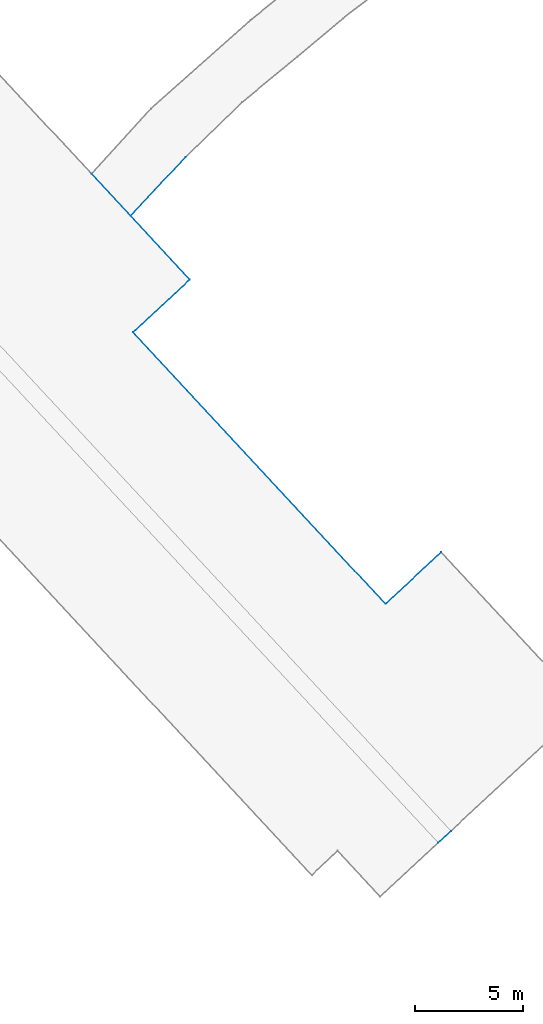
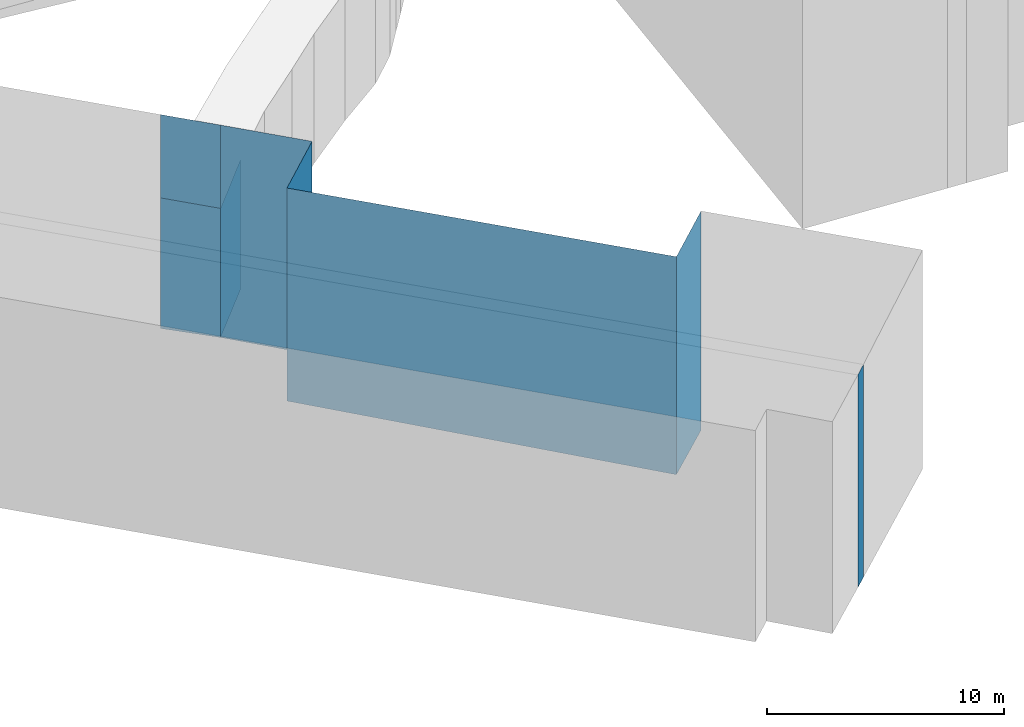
# Not in any storey, part 32 of 136: 8 walls.
"""IFC2X3 building model written with IfcOpenShell, lengths in metres."""

import ifcopenshell
import ifcopenshell.guid

model = None  # the IFC model being written
_history = None  # IfcOwnerHistory: only IFC2X3 demands one
_inside = {}  # id of a spatial element -> (the spatial element, [elements in it])
_under = {}  # id of a project, library or spatial element -> (it, [spatial elements below it])
_declared = {}  # id of a project -> (the project, [libraries it declares])
_typed = {}  # id of a type object -> (the type object, [elements of that type])
_made_of = {}  # id of a material, layer set ... -> (it, [elements and type objects made of it])


def new_model(schema):
    """Start an empty IFC model of exactly this schema.

    Asked for "IFC4X3", IfcOpenShell would pick the latest addendum, in which some entities
    have other attributes; the version numbers below select the first issue.
    IFC2X3 requires an IfcOwnerHistory on every rooted entity: one is made here for all.
    """
    global model, _history
    if schema == "IFC4X3":
        model = ifcopenshell.file(schema_version=(4, 3, 0, 0))
    else:
        model = ifcopenshell.file(schema=schema)
    _inside.clear()
    _under.clear()
    _declared.clear()
    _typed.clear()
    _made_of.clear()
    _history = None
    if model.schema == "IFC2X3":
        org = make("IfcOrganization", Name="unknown")
        user = make(
            "IfcPersonAndOrganization",
            ThePerson=make("IfcPerson", FamilyName="unknown"),
            TheOrganization=org,
        )
        app = make(
            "IfcApplication",
            ApplicationDeveloper=org,
            Version="unknown",
            ApplicationFullName="unknown",
            ApplicationIdentifier="unknown",
        )
        _history = make(
            "IfcOwnerHistory",
            OwningUser=user,
            OwningApplication=app,
            ChangeAction="ADDED",
            CreationDate=0,
        )
    return model


def make(cls, **values):
    """One entity of the class cls with the attributes given. An attribute that is None is left unset."""
    return model.create_entity(
        cls, **{name: value for name, value in values.items() if value is not None}
    )


def entity(cls, *values):
    """Any entity or typed value of the class cls, its attributes in the order of the schema. None: left unset."""
    e = model.create_entity(cls)
    for i, value in enumerate(values):
        if value is not None:
            e[i] = value
    return e


def rooted(cls, **values):
    """An entity with a GlobalId (a new one), such as an element, a storey or a relation."""
    return make(cls, GlobalId=ifcopenshell.guid.new(), OwnerHistory=_history, **values)


def si_unit(unit_type, name, prefix=None):
    """IfcSIUnit, for example si_unit("LENGTHUNIT", "METRE", prefix="MILLI")."""
    return make("IfcSIUnit", UnitType=unit_type, Prefix=prefix, Name=name)


def converted_unit(unit_type, name, factor, base, dimensions=None, offset=None):
    """IfcConversionBasedUnit, such as the inch: factor (a typed value) times the base unit."""
    return make(
        "IfcConversionBasedUnit"
        if offset is None
        else "IfcConversionBasedUnitWithOffset",
        ConversionOffset=offset,
        Dimensions=None
        if dimensions is None
        else entity("IfcDimensionalExponents", *dimensions),
        UnitType=unit_type,
        Name=name,
        ConversionFactor=make(
            "IfcMeasureWithUnit", ValueComponent=factor, UnitComponent=base
        ),
    )


def assignment(units):
    """IfcUnitAssignment: the units of a project."""
    return None if units is None else make("IfcUnitAssignment", Units=units)


def point(xyz):
    """IfcCartesianPoint."""
    return None if xyz is None else make("IfcCartesianPoint", Coordinates=xyz)


def direction(xyz):
    """IfcDirection."""
    return None if xyz is None else make("IfcDirection", DirectionRatios=xyz)


def frame(location, z_axis=None, x_axis=None):
    """IfcAxis2Placement3D, a coordinate frame: its origin and axes. An axis left out is left unset."""
    return make(
        "IfcAxis2Placement3D",
        Location=point(location),
        Axis=direction(z_axis),
        RefDirection=direction(x_axis),
    )


def origin():
    """The frame at (0, 0, 0) with its axes left unset."""
    return frame((0.0, 0.0, 0.0))


def place(relative_to, where):
    """IfcLocalPlacement: puts the frame where relative to a parent placement (None: the world)."""
    return make(
        "IfcLocalPlacement", PlacementRelTo=relative_to, RelativePlacement=where
    )


def context(
    kind, dimensions, precision=None, world=None, true_north=None, identifier=None
):
    """IfcGeometricRepresentationContext, for example the 3D "Model" context."""
    return make(
        "IfcGeometricRepresentationContext",
        ContextIdentifier=identifier,
        ContextType=kind,
        CoordinateSpaceDimension=dimensions,
        Precision=precision,
        WorldCoordinateSystem=world,
        TrueNorth=true_north,
    )


def subcontext(parent, identifier, kind, view, scale=None):
    """IfcGeometricRepresentationSubContext, for example "Body" below "Model"."""
    return make(
        "IfcGeometricRepresentationSubContext",
        ContextIdentifier=identifier,
        ContextType=kind,
        ParentContext=parent,
        TargetScale=scale,
        TargetView=view,
    )


def project(units=None, contexts=None):
    """IfcProject with its units and contexts."""
    return rooted(
        "IfcProject",
        Name="project",
        RepresentationContexts=contexts,
        UnitsInContext=assignment(units),
    )


def spatial(cls, under=None, at=None, **own):
    """A site, building, storey or space (cls), placed at a placement, below another one or the project."""
    s = rooted(cls, ObjectPlacement=at, **own)
    if under is not None:
        _under.setdefault(under.id(), (under, []))[1].append(s)
    return s


def faces_of(points, faces, orient=None, outer=None):
    """IfcFace entities. A face is a list of loops; a loop is a list of indices into points, from 0.

    orient and outer hold one flag for each loop. By default every Orientation is true, the
    first loop of a face is its IfcFaceOuterBound and the others are IfcFaceBound.
    """
    made = []
    for i, loops in enumerate(faces):
        bounds = []
        for j, loop in enumerate(loops):
            is_outer = j == 0 if outer is None else outer[i][j]
            bounds.append(
                make(
                    "IfcFaceOuterBound" if is_outer else "IfcFaceBound",
                    Bound=make("IfcPolyLoop", Polygon=[points[k] for k in loop]),
                    Orientation=True if orient is None else orient[i][j],
                )
            )
        made.append(make("IfcFace", Bounds=bounds))
    return made


def face_set(faces, orient=None, outer=None):
    """The faces of one IfcConnectedFaceSet. surface_model builds it on its shared points."""
    return ("IfcConnectedFaceSet", faces, orient, outer)


def surface_model(cls, points, shells):
    """IfcFaceBasedSurfaceModel or IfcShellBasedSurfaceModel (cls): surfaces that need not close."""
    shared = [point(p) for p in points]
    made = [make(c, CfsFaces=faces_of(shared, fs, o, b)) for c, fs, o, b in shells]
    if cls == "IfcFaceBasedSurfaceModel":
        return make(cls, FbsmFaces=made)
    return make(cls, SbsmBoundary=made)


def shape(context_of_items, identifier, shape_type, items):
    """IfcShapeRepresentation: the items that make up one representation, for example the "Body"."""
    return make(
        "IfcShapeRepresentation",
        ContextOfItems=context_of_items,
        RepresentationIdentifier=identifier,
        RepresentationType=shape_type,
        Items=items,
    )


def made_of(thing, what):
    """Note that an element or type object is made of a material, layer set ...; save() writes the relation."""
    if what is not None:
        _made_of.setdefault(what.id(), (what, []))[1].append(thing)
    return thing


def element(
    cls,
    number,
    at=None,
    inside=None,
    cuts=None,
    type_object=None,
    material=None,
    context=None,
    identifier="Body",
    shape_type=None,
    held_by="IfcProductDefinitionShape",
    body=None,
    shapes=None,
    **own,
):
    """One element of the class cls, such as IfcWall. Its Tag is "e" and its number.

    at: its placement. inside: the storey or other place that contains it. cuts: it is an
    opening in that element (IfcRelVoidsElement). A single representation is given by context,
    identifier, shape_type and body (its items); several are given by shapes. held_by: the class
    of the entity that holds the representations. save() writes the other relations.
    """
    e = rooted(cls, Tag="e%d" % number, ObjectPlacement=at, **own)
    if body is not None:
        shapes = [shape(context, identifier, shape_type, body)]
    if shapes is not None:
        e.Representation = make(held_by, Representations=shapes)
    if inside is not None:
        _inside.setdefault(inside.id(), (inside, []))[1].append(e)
    if cuts is not None:
        rooted(
            "IfcRelVoidsElement", RelatingBuildingElement=cuts, RelatedOpeningElement=e
        )
    if type_object is not None:
        _typed.setdefault(type_object.id(), (type_object, []))[1].append(e)
    return made_of(e, material)


def aggregate(whole, parts):
    """IfcRelAggregates: a whole, such as a stair, and the parts it consists of."""
    return rooted("IfcRelAggregates", RelatingObject=whole, RelatedObjects=parts)


def save(model, path):
    """Write the relations noted so far, then the file.

    IfcRelAggregates (storeys below a building ...), IfcRelContainedInSpatialStructure (elements
    in a storey), IfcRelDefinesByType, IfcRelAssociatesMaterial and IfcRelDeclares: one each for
    every whole, place, type object, material and project.
    """
    for whole, parts in _under.values():
        aggregate(whole, parts)
    for where, things in _inside.values():
        rooted(
            "IfcRelContainedInSpatialStructure",
            RelatedElements=things,
            RelatingStructure=where,
        )
    for kind, things in _typed.values():
        rooted("IfcRelDefinesByType", RelatedObjects=things, RelatingType=kind)
    for what, things in _made_of.values():
        rooted("IfcRelAssociatesMaterial", RelatedObjects=things, RelatingMaterial=what)
    for by, libraries in _declared.values():
        rooted("IfcRelDeclares", RelatingContext=by, RelatedDefinitions=libraries)
    model.write(path)


model = new_model("IFC2X3")

# Units and contexts
model_context = context("Model", 3, precision=1e-05, world=origin())
body_context = subcontext(model_context, "Body", "Model", "MODEL_VIEW")
ifc_project = project(units=[converted_unit("PLANEANGLEUNIT", "DEGREE", entity("IfcRatioMeasure", 0.0174532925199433), si_unit("PLANEANGLEUNIT", "RADIAN"), dimensions=[0, 0, 0, 0, 0, 0, 0]), si_unit("AREAUNIT", "SQUARE_METRE"), si_unit("LENGTHUNIT", "METRE")], contexts=[model_context])

# Site, building
site_placement = place(None, origin())
site = spatial("IfcSite", under=ifc_project, at=site_placement, Name="_site", CompositionType="ELEMENT")
building_1_placement = place(site_placement, origin())
building_1 = spatial("IfcBuilding", under=site, at=building_1_placement, Name="_building", CompositionType="ELEMENT")

# Walls
wall_1_placement = place(building_1_placement, origin())
element("IfcWall", 1, at=wall_1_placement, inside=building_1, Name="Wall", context=body_context, shape_type="SurfaceModel", body=[
    surface_model("IfcFaceBasedSurfaceModel", [(198.5, -6.27, 48.72), (197.91, -6.82, 48.72), (197.91, -6.82, 37.745), (198.5, -6.27, 37.73)], [face_set([[[0, 1, 2, 3]]])]),
])
wall_2_placement = place(building_1_placement, origin())
element("IfcWall", 2, at=wall_2_placement, inside=building_1, Name="Wall", context=body_context, shape_type="SurfaceModel", body=[
    surface_model("IfcFaceBasedSurfaceModel", [(183.73, 16.9, 48.95), (195.46, 4.28, 48.95), (195.46, 4.28, 37.697), (183.73, 16.9, 37.956)], [face_set([[[0, 1, 2, 3]]])]),
])
wall_3_placement = place(building_1_placement, origin())
element("IfcWall", 3, at=wall_3_placement, inside=building_1, Name="Wall", context=body_context, shape_type="SurfaceModel", body=[
    surface_model("IfcFaceBasedSurfaceModel", [(183.62, 22.32, 48.95), (186.37, 19.351, 48.95), (186.37, 19.351, 37.953), (183.62, 22.32, 37.985)], [face_set([[[0, 1, 2, 3]]])]),
])
wall_4_placement = place(building_1_placement, origin())
element("IfcWall", 4, at=wall_4_placement, inside=building_1, Name="Wall", context=body_context, shape_type="SurfaceModel", body=[
    surface_model("IfcFaceBasedSurfaceModel", [(195.46, 4.28, 48.95), (198.05, 6.68, 48.95), (198.05, 6.68, 37.634), (195.46, 4.28, 37.697)], [face_set([[[0, 1, 2, 3]]])]),
])
wall_5_placement = place(building_1_placement, origin())
element("IfcWall", 5, at=wall_5_placement, inside=building_1, Name="Wall", context=body_context, shape_type="SurfaceModel", body=[
    surface_model("IfcFaceBasedSurfaceModel", [(181.81, 24.26, 48.95), (183.62, 22.32, 48.95), (183.62, 22.32, 37.985), (181.81, 24.26, 37.91)], [face_set([[[0, 1, 2, 3]]])]),
])
wall_6_placement = place(building_1_placement, origin())
element("IfcWall", 6, at=wall_6_placement, inside=building_1, Name="Wall", context=body_context, shape_type="SurfaceModel", body=[
    surface_model("IfcFaceBasedSurfaceModel", [(186.37, 19.351, 48.95), (183.73, 16.9, 48.95), (183.73, 16.9, 37.956), (186.37, 19.351, 37.953)], [face_set([[[0, 1, 2, 3]]])]),
])
wall_7_placement = place(building_1_placement, origin())
element("IfcWall", 7, at=wall_7_placement, inside=building_1, Name="Wall", context=body_context, shape_type="SurfaceModel", body=[
    surface_model("IfcFaceBasedSurfaceModel", [(183.62, 22.32, 44.65), (181.81, 24.26, 44.65), (181.81, 24.26, 37.91), (183.62, 22.32, 37.985)], [face_set([[[0, 1, 2, 3]]])]),
])

# Building
building_2_placement = place(site_placement, origin())
building_2 = spatial("IfcBuilding", under=site, at=building_2_placement, Name="_building", CompositionType="ELEMENT")

# Wall
wall_8_placement = place(building_2_placement, origin())
element("IfcWall", 8, at=wall_8_placement, inside=building_2, Name="Wall", context=body_context, shape_type="SurfaceModel", body=[
    surface_model("IfcFaceBasedSurfaceModel", [(186.17, 25.04, 44.65), (183.62, 22.32, 44.65), (183.62, 22.32, 37.985), (186.17, 25.04, 37.935)], [face_set([[[0, 1, 2, 3]]])]),
])

save(model, "model.ifc")
